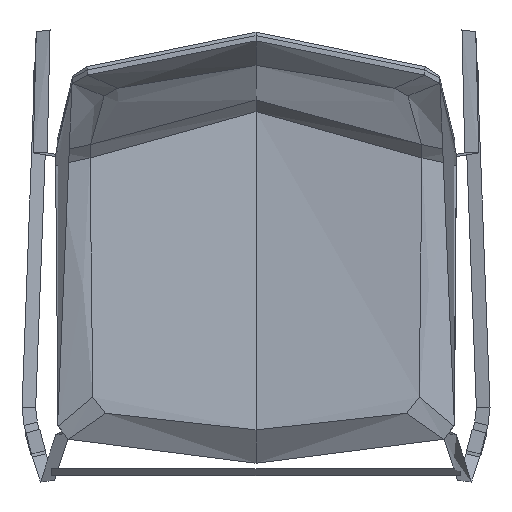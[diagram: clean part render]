
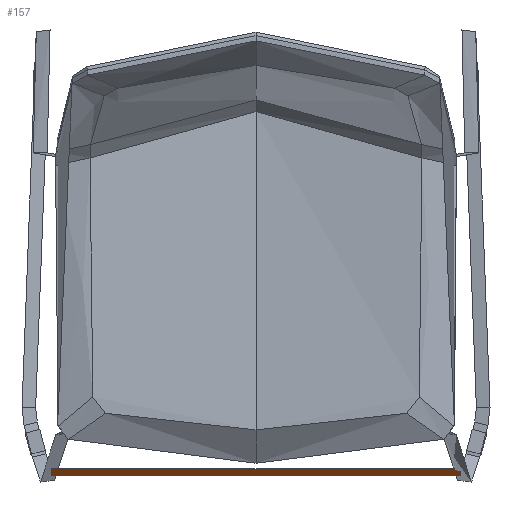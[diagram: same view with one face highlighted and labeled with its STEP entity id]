
A CAD part, top view. The second image highlights one B-rep face of the part: STEP entity #157.
In plain terms, the highlighted free-form (B-spline) face has degree [2, 1] with [5, 2] control points.
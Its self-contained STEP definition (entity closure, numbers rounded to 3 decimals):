
#157=ADVANCED_FACE('',(#305),#2123,.T.);
#305=FACE_OUTER_BOUND('',#453,.T.);
#453=EDGE_LOOP('',(#909,#910,#911,#912,#913,#914));
#909=ORIENTED_EDGE('',*,*,#1372,.T.);
#910=ORIENTED_EDGE('',*,*,#1374,.T.);
#911=ORIENTED_EDGE('',*,*,#1369,.T.);
#912=ORIENTED_EDGE('',*,*,#1371,.F.);
#913=ORIENTED_EDGE('',*,*,#1368,.T.);
#914=ORIENTED_EDGE('',*,*,#1367,.T.);
#1367=EDGE_CURVE('',#1958,#1962,#1704,.T.);
#1368=EDGE_CURVE('',#1959,#1958,#1705,.T.);
#1369=EDGE_CURVE('',#1960,#1961,#1706,.T.);
#1371=EDGE_CURVE('',#1959,#1961,#1708,.T.);
#1372=EDGE_CURVE('',#1962,#1963,#1709,.T.);
#1374=EDGE_CURVE('',#1963,#1960,#1711,.T.);
#1704=(
BOUNDED_CURVE()
B_SPLINE_CURVE(2,(#15077,#15078,#15079),.UNSPECIFIED.,.F.,.F.)
B_SPLINE_CURVE_WITH_KNOTS((3,3),(0.,12.566),.UNSPECIFIED.)
CURVE()
GEOMETRIC_REPRESENTATION_ITEM()
RATIONAL_B_SPLINE_CURVE((1.,0.707,1.))
REPRESENTATION_ITEM('')
);
#1705=(
BOUNDED_CURVE()
B_SPLINE_CURVE(2,(#15080,#15081,#15082),.UNSPECIFIED.,.F.,.F.)
B_SPLINE_CURVE_WITH_KNOTS((3,3),(38.574,50.265),
 .UNSPECIFIED.)
CURVE()
GEOMETRIC_REPRESENTATION_ITEM()
RATIONAL_B_SPLINE_CURVE((1.,0.742,1.))
REPRESENTATION_ITEM('')
);
#1706=(
BOUNDED_CURVE()
B_SPLINE_CURVE(2,(#15083,#15084,#15085),.UNSPECIFIED.,.F.,.F.)
B_SPLINE_CURVE_WITH_KNOTS((3,3),(-50.265,-38.574),
 .UNSPECIFIED.)
CURVE()
GEOMETRIC_REPRESENTATION_ITEM()
RATIONAL_B_SPLINE_CURVE((1.,0.742,1.))
REPRESENTATION_ITEM('')
);
#1708=(
BOUNDED_CURVE()
B_SPLINE_CURVE(1,(#15093,#15094),.UNSPECIFIED.,.F.,.F.)
B_SPLINE_CURVE_WITH_KNOTS((2,2),(0.,466.173),
 .UNSPECIFIED.)
CURVE()
GEOMETRIC_REPRESENTATION_ITEM()
RATIONAL_B_SPLINE_CURVE((1.,1.))
REPRESENTATION_ITEM('')
);
#1709=(
BOUNDED_CURVE()
B_SPLINE_CURVE(1,(#15095,#15096),.UNSPECIFIED.,.F.,.F.)
B_SPLINE_CURVE_WITH_KNOTS((2,2),(0.,466.173),
 .UNSPECIFIED.)
CURVE()
GEOMETRIC_REPRESENTATION_ITEM()
RATIONAL_B_SPLINE_CURVE((1.,1.))
REPRESENTATION_ITEM('')
);
#1711=(
BOUNDED_CURVE()
B_SPLINE_CURVE(2,(#15104,#15105,#15106),.UNSPECIFIED.,.F.,.F.)
B_SPLINE_CURVE_WITH_KNOTS((3,3),(-12.566,0.),.UNSPECIFIED.)
CURVE()
GEOMETRIC_REPRESENTATION_ITEM()
RATIONAL_B_SPLINE_CURVE((1.,0.707,1.))
REPRESENTATION_ITEM('')
);
#1958=VERTEX_POINT('',#15071);
#1959=VERTEX_POINT('',#15072);
#1960=VERTEX_POINT('',#15073);
#1961=VERTEX_POINT('',#15074);
#1962=VERTEX_POINT('',#15075);
#1963=VERTEX_POINT('',#15076);
#2123=(
BOUNDED_SURFACE()
B_SPLINE_SURFACE(2,1,((#15047,#15048),(#15049,#15050),(#15051,#15052),(#15053,
#15054),(#15055,#15056)),.UNSPECIFIED.,.F.,.F.,.F.)
B_SPLINE_SURFACE_WITH_KNOTS((3,2,3),(2,2),(0.,11.691,24.258),
(0.,466.173),.UNSPECIFIED.)
GEOMETRIC_REPRESENTATION_ITEM()
RATIONAL_B_SPLINE_SURFACE(((0.962,0.962),(0.728,
0.728),(1.,1.),(0.707,0.707),(1.,1.)))
REPRESENTATION_ITEM('')
SURFACE()
);
#15047=CARTESIAN_POINT('',(233.086,-219.882,202.04));
#15048=CARTESIAN_POINT('',(-233.086,-219.882,202.04));
#15049=CARTESIAN_POINT('',(233.086,-227.08,202.766));
#15050=CARTESIAN_POINT('',(-233.086,-227.08,202.766));
#15051=CARTESIAN_POINT('',(233.086,-227.08,210.));
#15052=CARTESIAN_POINT('',(-233.086,-227.08,210.));
#15053=CARTESIAN_POINT('',(233.086,-227.08,218.));
#15054=CARTESIAN_POINT('',(-233.086,-227.08,218.));
#15055=CARTESIAN_POINT('',(233.086,-219.08,218.));
#15056=CARTESIAN_POINT('',(-233.086,-219.08,218.));
#15071=CARTESIAN_POINT('',(233.086,-227.08,210.));
#15072=CARTESIAN_POINT('',(233.086,-219.882,202.04));
#15073=CARTESIAN_POINT('',(-233.086,-227.08,210.));
#15074=CARTESIAN_POINT('',(-233.086,-219.882,202.04));
#15075=CARTESIAN_POINT('',(233.086,-219.08,218.));
#15076=CARTESIAN_POINT('',(-233.086,-219.08,218.));
#15077=CARTESIAN_POINT('',(233.086,-227.08,210.));
#15078=CARTESIAN_POINT('',(233.086,-227.08,218.));
#15079=CARTESIAN_POINT('',(233.086,-219.08,218.));
#15080=CARTESIAN_POINT('',(233.086,-219.882,202.04));
#15081=CARTESIAN_POINT('',(233.086,-227.08,202.766));
#15082=CARTESIAN_POINT('',(233.086,-227.08,210.));
#15083=CARTESIAN_POINT('',(-233.086,-227.08,210.));
#15084=CARTESIAN_POINT('',(-233.086,-227.08,202.766));
#15085=CARTESIAN_POINT('',(-233.086,-219.882,202.04));
#15093=CARTESIAN_POINT('',(233.086,-219.882,202.04));
#15094=CARTESIAN_POINT('',(-233.086,-219.882,202.04));
#15095=CARTESIAN_POINT('',(233.086,-219.08,218.));
#15096=CARTESIAN_POINT('',(-233.086,-219.08,218.));
#15104=CARTESIAN_POINT('',(-233.086,-219.08,218.));
#15105=CARTESIAN_POINT('',(-233.086,-227.08,218.));
#15106=CARTESIAN_POINT('',(-233.086,-227.08,210.));
